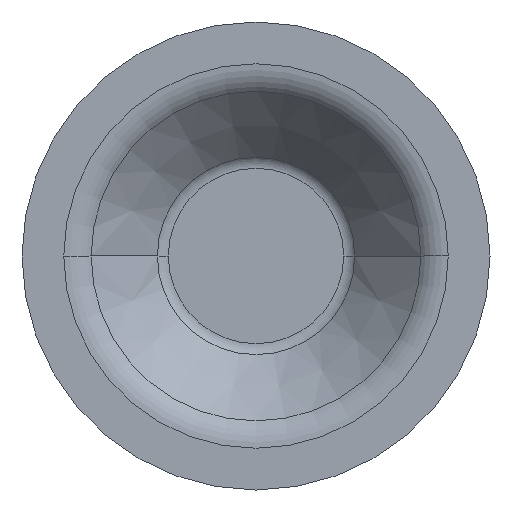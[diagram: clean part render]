
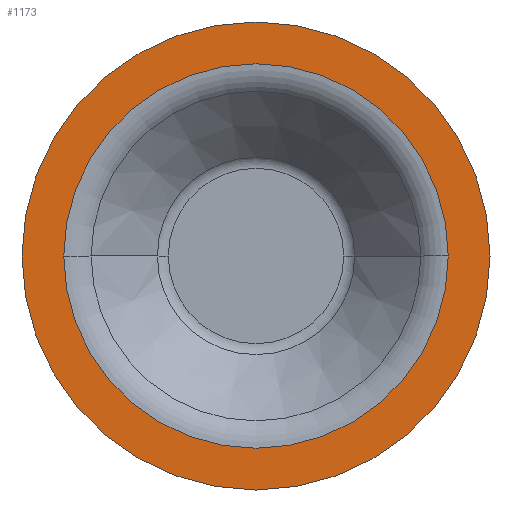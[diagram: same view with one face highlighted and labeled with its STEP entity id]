
A CAD part, front view. The second image highlights one B-rep face of the part: STEP entity #1173.
In plain terms, the highlighted planar face has unit normal (0, -1, 0).
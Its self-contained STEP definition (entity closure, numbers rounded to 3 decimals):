
#31 = EDGE_CURVE ( 'NONE', #886, #1316, #1046, .T. ) ;
#36 = CARTESIAN_POINT ( 'NONE',  ( -25.88, -15., 0. ) ) ;
#50 = ORIENTED_EDGE ( 'NONE', *, *, #1397, .T. ) ;
#59 = EDGE_LOOP ( 'NONE', ( #1417, #50 ) ) ;
#67 = FACE_OUTER_BOUND ( 'NONE', #59, .T. ) ;
#206 = DIRECTION ( 'NONE',  ( 0., -1., 0. ) ) ;
#274 = AXIS2_PLACEMENT_3D ( 'NONE', #1527, #902, #1058 ) ;
#287 = ORIENTED_EDGE ( 'NONE', *, *, #31, .F. ) ;
#315 = DIRECTION ( 'NONE',  ( 0., -1., 0. ) ) ;
#325 = AXIS2_PLACEMENT_3D ( 'NONE', #707, #206, #1211 ) ;
#345 = DIRECTION ( 'NONE',  ( 0., -1., 0. ) ) ;
#459 = DIRECTION ( 'NONE',  ( 1., 0., 0. ) ) ;
#484 = AXIS2_PLACEMENT_3D ( 'NONE', #948, #315, #1459 ) ;
#494 = DIRECTION ( 'NONE',  ( -1., 0., 0. ) ) ;
#567 = FACE_BOUND ( 'NONE', #1047, .T. ) ;
#630 = CARTESIAN_POINT ( 'NONE',  ( 31.5, -15., 0. ) ) ;
#631 = CARTESIAN_POINT ( 'NONE',  ( 0., -15., 0. ) ) ;
#707 = CARTESIAN_POINT ( 'NONE',  ( 0., -15., 0. ) ) ;
#746 = CARTESIAN_POINT ( 'NONE',  ( -31.5, -15., 0. ) ) ;
#754 = CARTESIAN_POINT ( 'NONE',  ( 25.88, -15., 0. ) ) ;
#804 = CIRCLE ( 'NONE', #274, 25.88 ) ;
#825 = VERTEX_POINT ( 'NONE', #746 ) ;
#879 = CIRCLE ( 'NONE', #1252, 31.5 ) ;
#886 = VERTEX_POINT ( 'NONE', #754 ) ;
#900 = DIRECTION ( 'NONE',  ( 0., -1., 0. ) ) ;
#902 = DIRECTION ( 'NONE',  ( 0., -1., 0. ) ) ;
#928 = ORIENTED_EDGE ( 'NONE', *, *, #1238, .F. ) ;
#948 = CARTESIAN_POINT ( 'NONE',  ( 31.5, -15., 0. ) ) ;
#1039 = CIRCLE ( 'NONE', #325, 31.5 ) ;
#1046 = CIRCLE ( 'NONE', #1441, 25.88 ) ;
#1047 = EDGE_LOOP ( 'NONE', ( #928, #287 ) ) ;
#1058 = DIRECTION ( 'NONE',  ( -1., 0., 0. ) ) ;
#1173 = ADVANCED_FACE ( 'NONE', ( #567, #67 ), #1580, .T. ) ;
#1192 = EDGE_CURVE ( 'NONE', #1573, #825, #1039, .T. ) ;
#1211 = DIRECTION ( 'NONE',  ( 1., 0., 0. ) ) ;
#1238 = EDGE_CURVE ( 'NONE', #1316, #886, #804, .T. ) ;
#1252 = AXIS2_PLACEMENT_3D ( 'NONE', #1454, #345, #459 ) ;
#1316 = VERTEX_POINT ( 'NONE', #36 ) ;
#1397 = EDGE_CURVE ( 'NONE', #825, #1573, #879, .T. ) ;
#1417 = ORIENTED_EDGE ( 'NONE', *, *, #1192, .T. ) ;
#1441 = AXIS2_PLACEMENT_3D ( 'NONE', #631, #900, #494 ) ;
#1454 = CARTESIAN_POINT ( 'NONE',  ( 0., -15., 0. ) ) ;
#1459 = DIRECTION ( 'NONE',  ( 1., 0., 0. ) ) ;
#1527 = CARTESIAN_POINT ( 'NONE',  ( 0., -15., 0. ) ) ;
#1573 = VERTEX_POINT ( 'NONE', #630 ) ;
#1580 = PLANE ( 'NONE',  #484 ) ;
